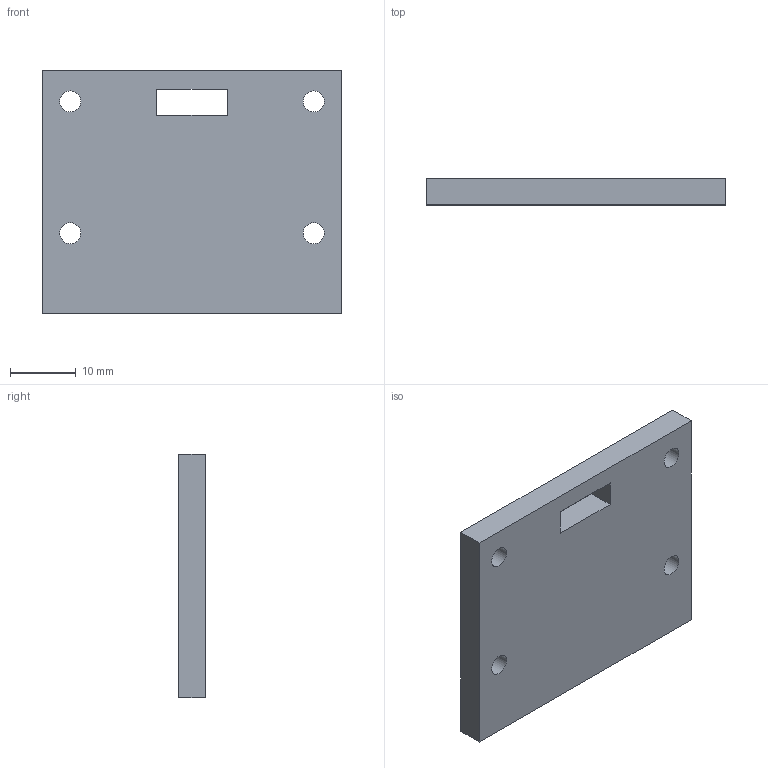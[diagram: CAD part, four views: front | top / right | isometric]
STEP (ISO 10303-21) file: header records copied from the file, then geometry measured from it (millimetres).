
FILE_DESCRIPTION(('FreeCAD Model'),'2;1');
FILE_NAME('Open CASCADE Shape Model','2024-06-26T11:40:24',('FreeCAD'),( 'FreeCAD'),'Open CASCADE STEP processor 7.6','FreeCAD','Unknown');
FILE_SCHEMA(('AUTOMOTIVE_DESIGN { 1 0 10303 214 1 1 1 1 }'));
Length unit declared in the file: millimetre
Products named in the file (1): Open CASCADE STEP translator 7.6 7
Bounding box: 45.5 x 4 x 37 mm (x, y, z)
Volume: 6434.8 mm3; surface area: 4155.5 mm2
Topology: 1 solids, 1 shells, 14 faces, 36 edges, 24 vertices
Faces by surface type: plane 10, cylinder 4
Full cylindrical faces by diameter (mm): 3.2 x4
Entity records: 458 total; most frequent: CARTESIAN_POINT 75, DIRECTION 74, ORIENTED_EDGE 72, EDGE_CURVE 36, LINE 28, VECTOR 28, FACE_BOUND 24, EDGE_LOOP 24
